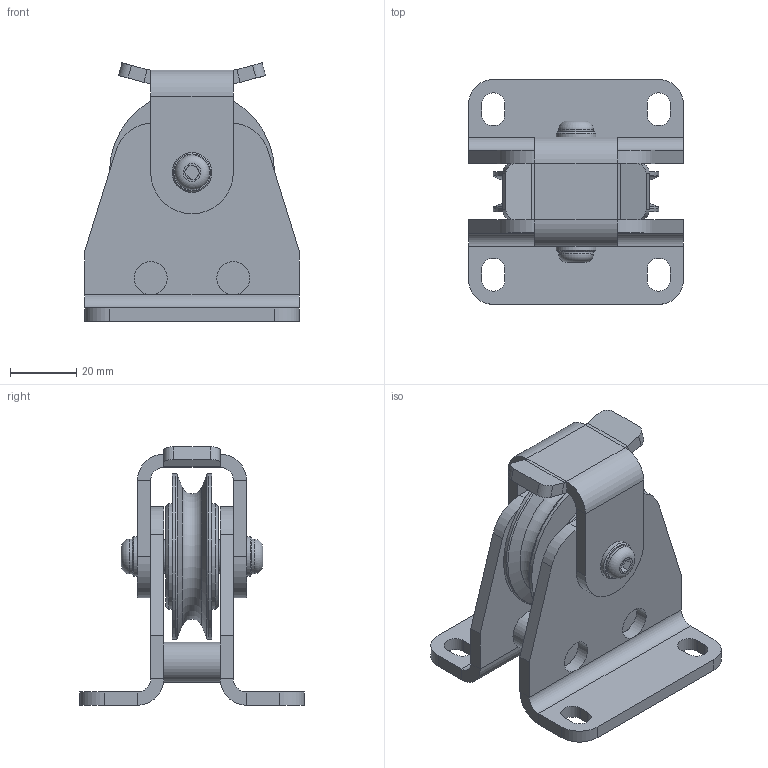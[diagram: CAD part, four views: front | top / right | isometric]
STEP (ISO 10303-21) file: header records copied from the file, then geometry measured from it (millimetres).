
FILE_DESCRIPTION(/* description */ ('Seilrollenbock Seilniederhalter ø50 Stahl Gleitlager komplett'),/* implementation_level */ '2;1');
FILE_NAME(/* name */ 'Z:\Workspace\03 Seilrollen\1.406 Seilrollenbock Seilniederhalter Gleitlager\1.406.01 Seilrollenbock Seilniederhalter ø50 Stahl Gleitlager\1.406.01 Seilrollenbock Seilniederhalter ø50 Stahl Gleitlager komplett.stp',/* time_stamp */ '2021-10-07T12:57:56+02:00',/* author */ ('cad-user'),/* organization */ (''),/* preprocessor_version */ 'ST-DEVELOPER v18',/* originating_system */ 'Autodesk Inventor 2020',/* authorisation */ '');
FILE_SCHEMA (('AUTOMOTIVE_DESIGN { 1 0 10303 214 3 1 1 }'));
Length unit declared in the file: millimetre
Products named in the file (11): 1.406.01 Seilrollenbock Seilniederhalter ø50 Stahl Gleitlager kom
plett; 1.405.01.01 Seilrollenbock Schweißteil; 1.405.01.01 Blech; 1.405.01.01 Distanzachse; 1.401.01 Seilrolle ø50 Buchse komplett; 1.401.01 Seilrolle ø50 Buchse; Lagerbuchse 1015-DU; 1.405.01.02 Achse; DIN 125-1 - B 6,4; 1.406.01.03 Seilniederhalter ø50; ISO 7380 - M6 x 16
Assembly tree (14 placements, depth 3):
  1.406.01 Seilrollenbock Seilniederhalter ø50 Stahl Gleitlager kom
plett
    1.405.01.01 Seilrollenbock Schweißteil
      1.405.01.01 Blech  x2
      1.405.01.01 Distanzachse  x2
    1.401.01 Seilrolle ø50 Buchse komplett
      1.401.01 Seilrolle ø50 Buchse
      Lagerbuchse 1015-DU
    1.405.01.02 Achse
    DIN 125-1 - B 6,4  x2
    1.406.01.03 Seilniederhalter ø50
    ISO 7380 - M6 x 16  x2
Bounding box: 65 x 68 x 78.19 mm (x, y, z)
Volume: 71768.3 mm3; surface area: 39710.9 mm2
Topology: 12 solids, 12 shells, 180 faces, 446 edges, 284 vertices
Faces by surface type: plane 98, cylinder 61, cone 14, torus 7
Full cylindrical faces by diameter (mm): 4.917 x1, 6 x2, 6.4 x4, 6.5 x2, 10 x6, 10.5 x2, 12 x5, 32 x2, 50 x2
Entity records: 4177 total; most frequent: DIRECTION 736, CARTESIAN_POINT 673, ORIENTED_EDGE 612, EDGE_CURVE 306, AXIS2_PLACEMENT_3D 290, VERTEX_POINT 194, LINE 156, VECTOR 156
